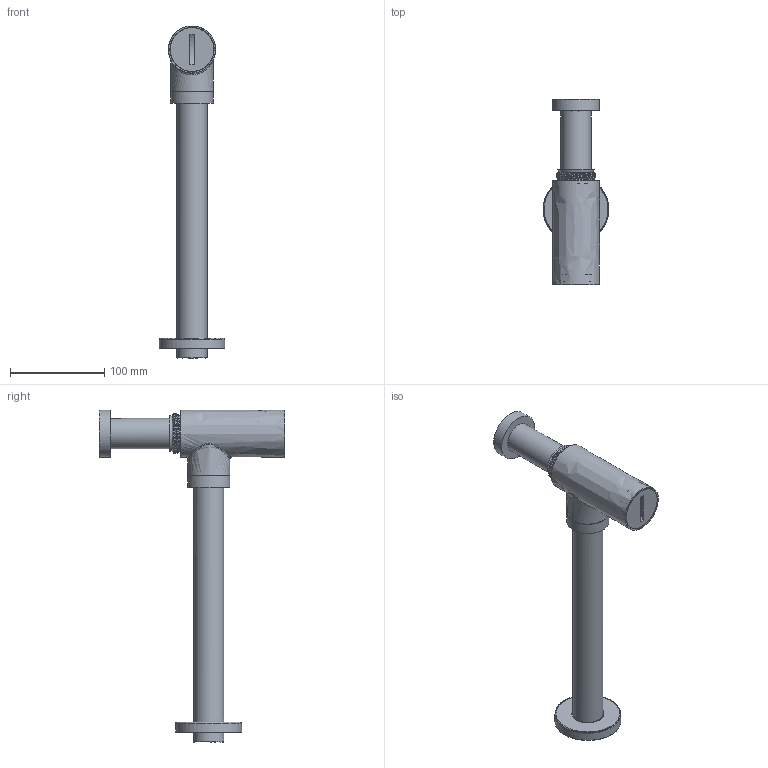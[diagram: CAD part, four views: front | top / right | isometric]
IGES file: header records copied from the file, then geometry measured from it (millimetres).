
Global section: file name: 94b524a3-51cd-4caf-9bdc-d2c37e9c4fcd; native system: unknown; preprocessor: unknown; author: unknown; organization: unknown; date: 20191212.111441; units: millimetre
Bounding box: 69.96 x 197.62 x 353 mm (x, y, z)
Volume: 87839.2 mm3; surface area: 182075.5 mm2
Topology: 10 solids, 10 shells, 165 faces, 751 edges, 646 vertices
Faces by surface type: bspline 155, revolution 10
